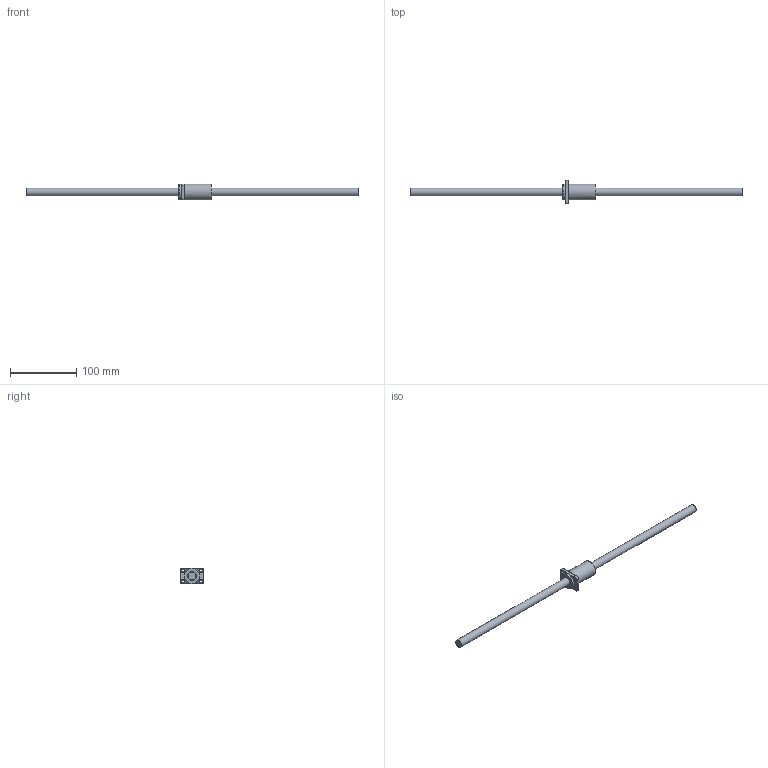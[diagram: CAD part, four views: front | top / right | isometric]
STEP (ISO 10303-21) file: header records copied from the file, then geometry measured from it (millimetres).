
FILE_DESCRIPTION (( 'STEP AP203' ), '1' );
FILE_NAME ('XSYR01220A2D-00.STEP', '2024-06-03T07:17:26', ( '' ), ( '' ), 'SwSTEP 2.0', 'SolidWorks 2022', '' );
FILE_SCHEMA (( 'CONFIG_CONTROL_DESIGN' ));
Length unit declared in the file: millimetre
Products named in the file (1): XSYR01220A2D-00
Bounding box: 500 x 36 x 24 mm (x, y, z)
Volume: 73673.5 mm3; surface area: 26630.7 mm2
Topology: 2 solids, 2 shells, 54 faces, 122 edges, 72 vertices
Faces by surface type: plane 24, cylinder 12, torus 10, cone 8
Full cylindrical faces by diameter (mm): 4.5 x4, 12 x1, 13.5 x1, 24 x2
Entity records: 1599 total; most frequent: CARTESIAN_POINT 423, DIRECTION 230, ORIENTED_EDGE 200, EDGE_CURVE 100, AXIS2_PLACEMENT_3D 99, EDGE_LOOP 82, VERTEX_POINT 68, FACE_OUTER_BOUND 64
